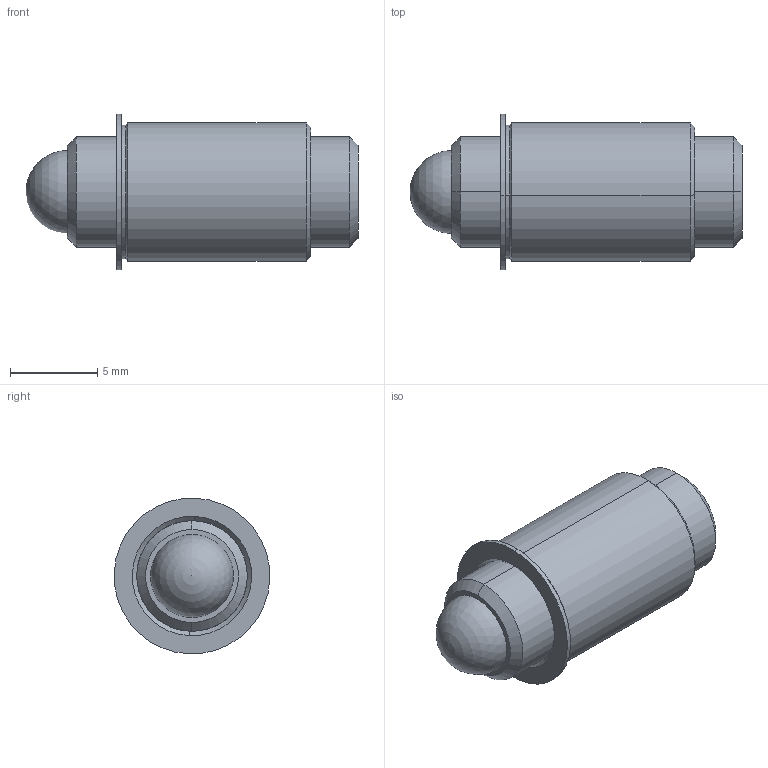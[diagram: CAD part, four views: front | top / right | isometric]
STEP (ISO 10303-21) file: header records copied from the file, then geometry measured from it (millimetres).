
FILE_DESCRIPTION (( 'STEP AP214' ), '1' );
FILE_NAME ('TSB250-80-750_437-AA.STEP', '2013-03-14T12:39:18', ( 'workpc' ), ( 'Microsoft' ), 'SwSTEP 2.0', 'SolidWorks 2013', '' );
FILE_SCHEMA (( 'AUTOMOTIVE_DESIGN' ));
Length unit declared in the file: inch
Products named in the file (1): TSB250-80-750_437-AA
Bounding box: 19.05 x 8.93 x 8.93 mm (x, y, z)
Surface area: 794.2 mm2 (no closed solid volume)
Topology: 0 solids, 3 shells, 33 faces, 77 edges, 49 vertices
Faces by surface type: cone 12, plane 11, cylinder 8, sphere 2
Entity records: 1358 total; most frequent: DIRECTION 174, CARTESIAN_POINT 152, ORIENTED_EDGE 132, EDGE_CURVE 72, AXIS2_PLACEMENT_3D 68, VERTEX_POINT 46, VECTOR 38, EDGE_LOOP 38
